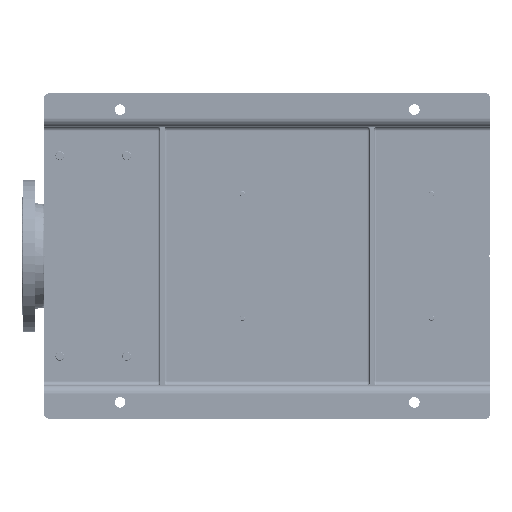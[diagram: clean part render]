
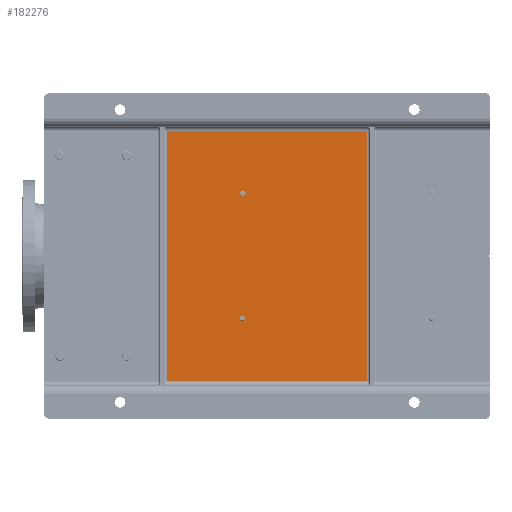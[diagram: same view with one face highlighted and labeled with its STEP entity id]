
A CAD part, front view. The second image highlights one B-rep face of the part: STEP entity #182276.
In plain terms, the highlighted planar face has unit normal (0, -1, 0).
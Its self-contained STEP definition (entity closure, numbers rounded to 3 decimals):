
#3791 = CARTESIAN_POINT ( 'NONE',  ( 225.5, 90., -444. ) ) ;
#3792 = ORIENTED_EDGE ( 'NONE', *, *, #186430, .T. ) ;
#9483 = CARTESIAN_POINT ( 'NONE',  ( 498.5, 90., -444. ) ) ;
#13323 = ORIENTED_EDGE ( 'NONE', *, *, #74235, .T. ) ;
#20113 = CARTESIAN_POINT ( 'NONE',  ( 75., 90., -275. ) ) ;
#20819 = CARTESIAN_POINT ( 'NONE',  ( 85., 90., -275. ) ) ;
#22061 = FACE_BOUND ( 'NONE', #253322, .T. ) ;
#27461 = VERTEX_POINT ( 'NONE', #63392 ) ;
#28240 = DIRECTION ( 'NONE',  ( 0., 1., 0. ) ) ;
#32138 = VECTOR ( 'NONE', #165194, 1000. ) ;
#32303 = ORIENTED_EDGE ( 'NONE', *, *, #221310, .T. ) ;
#43031 = CIRCLE ( 'NONE', #187237, 6. ) ;
#48876 = DIRECTION ( 'NONE',  ( 1., 0., 0. ) ) ;
#50312 = CARTESIAN_POINT ( 'NONE',  ( 645., 90., -270. ) ) ;
#56880 = DIRECTION ( 'NONE',  ( 0., 1., 0. ) ) ;
#61929 = VECTOR ( 'NONE', #98831, 1000. ) ;
#63392 = CARTESIAN_POINT ( 'NONE',  ( 219.5, 90., -444. ) ) ;
#65384 = EDGE_CURVE ( 'NONE', #182216, #231256, #191546, .T. ) ;
#74235 = EDGE_CURVE ( 'NONE', #215134, #235622, #128515, .T. ) ;
#75358 = ORIENTED_EDGE ( 'NONE', *, *, #88630, .T. ) ;
#76326 = CARTESIAN_POINT ( 'NONE',  ( 75., 90., -1000. ) ) ;
#77611 = FACE_OUTER_BOUND ( 'NONE', #170611, .T. ) ;
#84562 = LINE ( 'NONE', #20113, #61929 ) ;
#86362 = AXIS2_PLACEMENT_3D ( 'NONE', #130505, #56880, #250435 ) ;
#88630 = EDGE_CURVE ( 'NONE', #235622, #96845, #99875, .T. ) ;
#88742 = ORIENTED_EDGE ( 'NONE', *, *, #247967, .T. ) ;
#89831 = DIRECTION ( 'NONE',  ( 0., 0., -1. ) ) ;
#91100 = CARTESIAN_POINT ( 'NONE',  ( 85., 90., -730. ) ) ;
#93482 = CARTESIAN_POINT ( 'NONE',  ( 504.5, 90., -444. ) ) ;
#93926 = CARTESIAN_POINT ( 'NONE',  ( 645., 90., -725. ) ) ;
#94790 = ORIENTED_EDGE ( 'NONE', *, *, #209278, .T. ) ;
#95999 = DIRECTION ( 'NONE',  ( 0., 1., 0. ) ) ;
#96845 = VERTEX_POINT ( 'NONE', #93926 ) ;
#98556 = DIRECTION ( 'NONE',  ( -1., 0., 0. ) ) ;
#98831 = DIRECTION ( 'NONE',  ( -1., 0., 0. ) ) ;
#99513 = FACE_BOUND ( 'NONE', #166652, .T. ) ;
#99875 = LINE ( 'NONE', #137304, #153317 ) ;
#109243 = CARTESIAN_POINT ( 'NONE',  ( 645., 90., -275. ) ) ;
#112078 = DIRECTION ( 'NONE',  ( -1., 0., 0. ) ) ;
#112233 = CARTESIAN_POINT ( 'NONE',  ( 231.5, 90., -444. ) ) ;
#123176 = ORIENTED_EDGE ( 'NONE', *, *, #240992, .T. ) ;
#126173 = CARTESIAN_POINT ( 'NONE',  ( 85., 90., -725. ) ) ;
#128515 = LINE ( 'NONE', #91100, #241289 ) ;
#130505 = CARTESIAN_POINT ( 'NONE',  ( 225.5, 90., -444. ) ) ;
#135851 = VERTEX_POINT ( 'NONE', #109243 ) ;
#137304 = CARTESIAN_POINT ( 'NONE',  ( 75., 90., -725. ) ) ;
#137780 = CARTESIAN_POINT ( 'NONE',  ( 504.5, 90., -444. ) ) ;
#153317 = VECTOR ( 'NONE', #213490, 1000. ) ;
#161536 = ORIENTED_EDGE ( 'NONE', *, *, #65384, .T. ) ;
#165194 = DIRECTION ( 'NONE',  ( 0., 0., 1. ) ) ;
#166652 = EDGE_LOOP ( 'NONE', ( #94790, #161536 ) ) ;
#168185 = AXIS2_PLACEMENT_3D ( 'NONE', #76326, #179479, #196332 ) ;
#170611 = EDGE_LOOP ( 'NONE', ( #13323, #75358, #88742, #3792 ) ) ;
#178543 = VERTEX_POINT ( 'NONE', #112233 ) ;
#179479 = DIRECTION ( 'NONE',  ( 0., -1., 0. ) ) ;
#182216 = VERTEX_POINT ( 'NONE', #251819 ) ;
#182276 = ADVANCED_FACE ( 'NONE', ( #99513, #22061, #77611 ), #254376, .T. ) ;
#186430 = EDGE_CURVE ( 'NONE', #135851, #215134, #84562, .T. ) ;
#187237 = AXIS2_PLACEMENT_3D ( 'NONE', #3791, #28240, #48876 ) ;
#191546 = CIRCLE ( 'NONE', #241128, 6. ) ;
#196332 = DIRECTION ( 'NONE',  ( 0., 0., -1. ) ) ;
#201677 = CIRCLE ( 'NONE', #86362, 6. ) ;
#203926 = LINE ( 'NONE', #50312, #32138 ) ;
#209278 = EDGE_CURVE ( 'NONE', #231256, #182216, #224299, .T. ) ;
#213490 = DIRECTION ( 'NONE',  ( 1., 0., 0. ) ) ;
#215134 = VERTEX_POINT ( 'NONE', #20819 ) ;
#216503 = DIRECTION ( 'NONE',  ( 0., 1., 0. ) ) ;
#221310 = EDGE_CURVE ( 'NONE', #27461, #178543, #201677, .T. ) ;
#224299 = CIRCLE ( 'NONE', #253203, 6. ) ;
#231256 = VERTEX_POINT ( 'NONE', #9483 ) ;
#235622 = VERTEX_POINT ( 'NONE', #126173 ) ;
#240992 = EDGE_CURVE ( 'NONE', #178543, #27461, #43031, .T. ) ;
#241128 = AXIS2_PLACEMENT_3D ( 'NONE', #93482, #95999, #98556 ) ;
#241289 = VECTOR ( 'NONE', #89831, 1000. ) ;
#247967 = EDGE_CURVE ( 'NONE', #96845, #135851, #203926, .T. ) ;
#250435 = DIRECTION ( 'NONE',  ( 1., 0., 0. ) ) ;
#251819 = CARTESIAN_POINT ( 'NONE',  ( 510.5, 90., -444. ) ) ;
#253203 = AXIS2_PLACEMENT_3D ( 'NONE', #137780, #216503, #112078 ) ;
#253322 = EDGE_LOOP ( 'NONE', ( #32303, #123176 ) ) ;
#254376 = PLANE ( 'NONE',  #168185 ) ;
